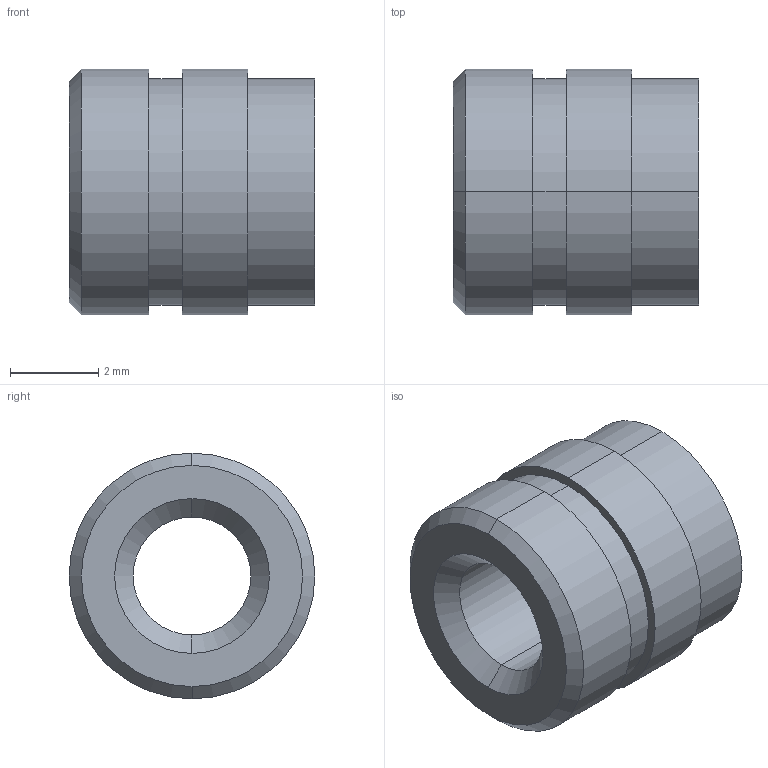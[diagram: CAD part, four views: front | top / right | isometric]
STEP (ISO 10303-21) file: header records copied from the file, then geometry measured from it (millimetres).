
FILE_DESCRIPTION(('starvars output'),'2;1');
FILE_NAME('cv20190724093446000060025.stp','09:34:46 2019/07/24',( 'Thomas Industrial Network Germany GmbH'),( 'Thomas Industrial Network Germany GmbH'),'unknown preprocess','ACIS' ,'unknown authorization');
FILE_SCHEMA(('AUTOMOTIVE_DESIGN_CC2 {UNKNOWN IMPLEMENTATION LEVEL}'));
Length unit declared in the file: millimetre
Products named in the file (1): PRODUCT_ID_2
Bounding box: 5.56 x 5.56 x 5.56 mm (x, y, z)
Volume: 93.5 mm3; surface area: 178.8 mm2
Topology: 1 solids, 1 shells, 21 faces, 42 edges, 26 vertices
Faces by surface type: cylinder 10, cone 6, plane 5
Entity records: 704 total; most frequent: ORIENTED_EDGE 84, CARTESIAN_POINT 68, DIRECTION 68, EDGE_CURVE 42, VERTEX_POINT 26, AXIS2_PLACEMENT_3D 26, EDGE_LOOP 26, FACE_BOUND 26
